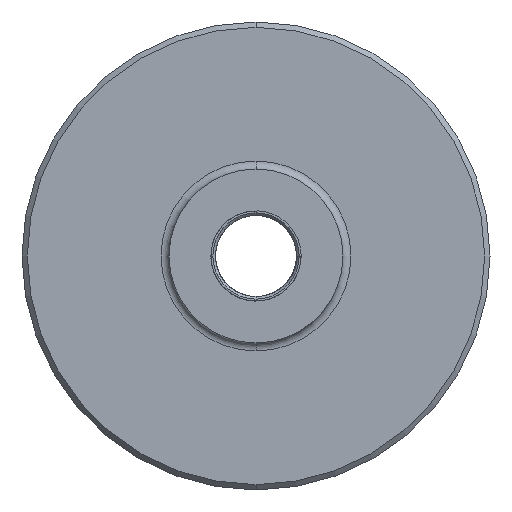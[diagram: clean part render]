
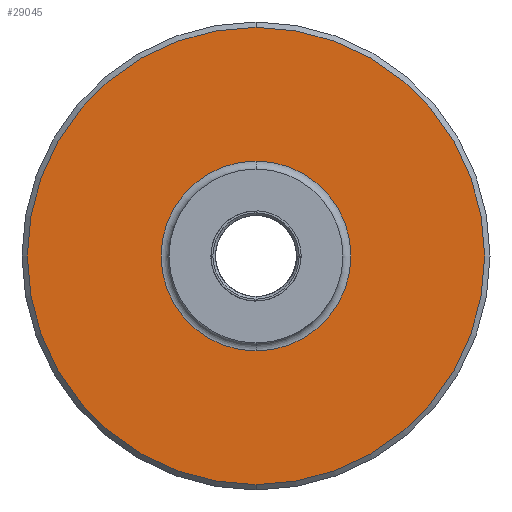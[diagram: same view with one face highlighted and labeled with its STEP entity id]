
A CAD part, front view. The second image highlights one B-rep face of the part: STEP entity #29045.
In plain terms, the highlighted planar face has unit normal (0, -1, 0).
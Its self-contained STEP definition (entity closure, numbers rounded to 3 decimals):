
#3107 = CARTESIAN_POINT ( 'NONE',  ( 112.499, -570.451, 402.678 ) ) ;
#3114 = DIRECTION ( 'NONE',  ( 0., 0., 1. ) ) ;
#3412 = EDGE_CURVE ( 'NONE', #38593, #35688, #34298, .T. ) ;
#3807 = EDGE_CURVE ( 'NONE', #27591, #31757, #8603, .T. ) ;
#5960 = EDGE_CURVE ( 'NONE', #31757, #27591, #30298, .T. ) ;
#6078 = FACE_BOUND ( 'NONE', #32017, .T. ) ;
#6515 = DIRECTION ( 'NONE',  ( 0., 0., 1. ) ) ;
#7744 = CARTESIAN_POINT ( 'NONE',  ( 112.499, -570.451, 523.678 ) ) ;
#8603 = CIRCLE ( 'NONE', #31829, 35.5 ) ;
#10016 = EDGE_CURVE ( 'NONE', #35688, #38593, #25034, .T. ) ;
#10800 = CARTESIAN_POINT ( 'NONE',  ( 112.499, -570.451, 438.178 ) ) ;
#10973 = CARTESIAN_POINT ( 'NONE',  ( 112.499, -570.451, 438.178 ) ) ;
#12012 = CARTESIAN_POINT ( 'NONE',  ( 112.499, -570.451, 438.178 ) ) ;
#12738 = DIRECTION ( 'NONE',  ( 0., -1., 0. ) ) ;
#16318 = AXIS2_PLACEMENT_3D ( 'NONE', #10973, #26579, #26368 ) ;
#16369 = AXIS2_PLACEMENT_3D ( 'NONE', #25836, #12738, #19578 ) ;
#17500 = ORIENTED_EDGE ( 'NONE', *, *, #10016, .T. ) ;
#17649 = CARTESIAN_POINT ( 'NONE',  ( 112.499, -570.451, 352.678 ) ) ;
#17691 = ORIENTED_EDGE ( 'NONE', *, *, #3807, .T. ) ;
#18859 = DIRECTION ( 'NONE',  ( 0., 1., 0. ) ) ;
#19578 = DIRECTION ( 'NONE',  ( 0., 0., 1. ) ) ;
#21466 = ORIENTED_EDGE ( 'NONE', *, *, #3412, .T. ) ;
#21836 = CARTESIAN_POINT ( 'NONE',  ( 112.499, -570.451, 438.178 ) ) ;
#23462 = DIRECTION ( 'NONE',  ( 0., -1., 0. ) ) ;
#24572 = FACE_OUTER_BOUND ( 'NONE', #35362, .T. ) ;
#25034 = CIRCLE ( 'NONE', #16369, 85.5 ) ;
#25836 = CARTESIAN_POINT ( 'NONE',  ( 112.499, -570.451, 438.178 ) ) ;
#26368 = DIRECTION ( 'NONE',  ( 0., 0., 1. ) ) ;
#26579 = DIRECTION ( 'NONE',  ( 0., 1., 0. ) ) ;
#27591 = VERTEX_POINT ( 'NONE', #3107 ) ;
#27680 = AXIS2_PLACEMENT_3D ( 'NONE', #10800, #23462, #6515 ) ;
#29045 = ADVANCED_FACE ( 'NONE', ( #24572, #6078 ), #30799, .F. ) ;
#30298 = CIRCLE ( 'NONE', #16318, 35.5 ) ;
#30799 = PLANE ( 'NONE',  #31246 ) ;
#31246 = AXIS2_PLACEMENT_3D ( 'NONE', #21836, #40594, #40790 ) ;
#31757 = VERTEX_POINT ( 'NONE', #40011 ) ;
#31829 = AXIS2_PLACEMENT_3D ( 'NONE', #12012, #18859, #3114 ) ;
#32017 = EDGE_LOOP ( 'NONE', ( #37699, #17691 ) ) ;
#34298 = CIRCLE ( 'NONE', #27680, 85.5 ) ;
#35362 = EDGE_LOOP ( 'NONE', ( #21466, #17500 ) ) ;
#35688 = VERTEX_POINT ( 'NONE', #17649 ) ;
#37699 = ORIENTED_EDGE ( 'NONE', *, *, #5960, .T. ) ;
#38593 = VERTEX_POINT ( 'NONE', #7744 ) ;
#40011 = CARTESIAN_POINT ( 'NONE',  ( 112.499, -570.451, 473.678 ) ) ;
#40594 = DIRECTION ( 'NONE',  ( 0., 1., 0. ) ) ;
#40790 = DIRECTION ( 'NONE',  ( 0., 0., 1. ) ) ;
